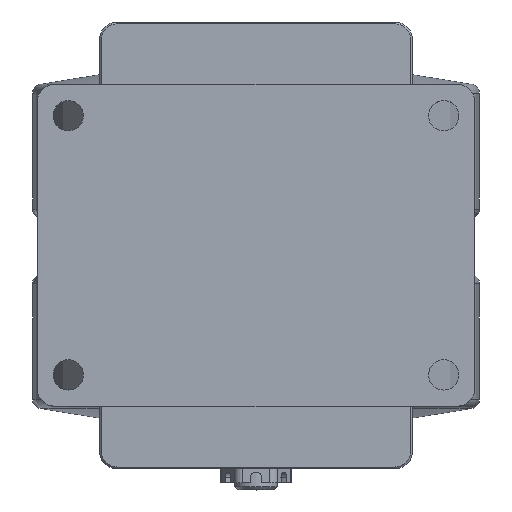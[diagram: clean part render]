
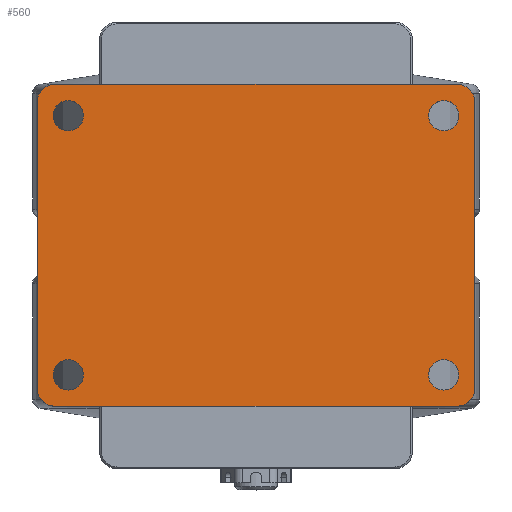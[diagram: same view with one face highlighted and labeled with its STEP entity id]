
A CAD part, top view. The second image highlights one B-rep face of the part: STEP entity #560.
In plain terms, the highlighted planar face has unit normal (0, 0, 1).
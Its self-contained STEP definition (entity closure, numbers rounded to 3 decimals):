
#560=ADVANCED_FACE('',(#1392,#1393,#1394,#1395,#1396),#889,.T.);
#889=PLANE('',#6814);
#1392=FACE_BOUND('',#1527,.T.);
#1393=FACE_BOUND('',#1528,.T.);
#1394=FACE_BOUND('',#1529,.T.);
#1395=FACE_BOUND('',#1530,.T.);
#1396=FACE_BOUND('',#1531,.T.);
#1527=EDGE_LOOP('',(#2615,#2616,#2617,#2618,#2619,#2620,#2621,#2622));
#1528=EDGE_LOOP('',(#2623));
#1529=EDGE_LOOP('',(#2624));
#1530=EDGE_LOOP('',(#2625));
#1531=EDGE_LOOP('',(#2626));
#1950=CIRCLE('',#6801,8.5);
#1951=CIRCLE('',#6803,8.5);
#1952=CIRCLE('',#6805,8.5);
#1953=CIRCLE('',#6808,8.5);
#1954=CIRCLE('',#6810,10.);
#1955=CIRCLE('',#6811,10.);
#1956=CIRCLE('',#6812,10.);
#1957=CIRCLE('',#6813,10.);
#2615=ORIENTED_EDGE('',*,*,#5063,.T.);
#2616=ORIENTED_EDGE('',*,*,#5075,.T.);
#2617=ORIENTED_EDGE('',*,*,#5065,.T.);
#2618=ORIENTED_EDGE('',*,*,#5076,.T.);
#2619=ORIENTED_EDGE('',*,*,#5071,.T.);
#2620=ORIENTED_EDGE('',*,*,#5077,.T.);
#2621=ORIENTED_EDGE('',*,*,#5059,.T.);
#2622=ORIENTED_EDGE('',*,*,#5078,.T.);
#2623=ORIENTED_EDGE('',*,*,#5070,.F.);
#2624=ORIENTED_EDGE('',*,*,#5069,.T.);
#2625=ORIENTED_EDGE('',*,*,#5068,.T.);
#2626=ORIENTED_EDGE('',*,*,#5074,.F.);
#4351=VERTEX_POINT('',#10162);
#4352=VERTEX_POINT('',#10163);
#4353=VERTEX_POINT('',#10168);
#4354=VERTEX_POINT('',#10170);
#4355=VERTEX_POINT('',#10174);
#4356=VERTEX_POINT('',#10175);
#4357=VERTEX_POINT('',#10180);
#4358=VERTEX_POINT('',#10183);
#4359=VERTEX_POINT('',#10186);
#4360=VERTEX_POINT('',#10189);
#4361=VERTEX_POINT('',#10190);
#4362=VERTEX_POINT('',#10195);
#5059=EDGE_CURVE('',#4351,#4352,#5814,.T.);
#5063=EDGE_CURVE('',#4354,#4353,#5818,.T.);
#5065=EDGE_CURVE('',#4355,#4356,#5820,.T.);
#5068=EDGE_CURVE('',#4357,#4357,#1950,.T.);
#5069=EDGE_CURVE('',#4358,#4358,#1951,.T.);
#5070=EDGE_CURVE('',#4359,#4359,#1952,.T.);
#5071=EDGE_CURVE('',#4360,#4361,#5823,.T.);
#5074=EDGE_CURVE('',#4362,#4362,#1953,.T.);
#5075=EDGE_CURVE('',#4353,#4355,#1954,.T.);
#5076=EDGE_CURVE('',#4356,#4360,#1955,.T.);
#5077=EDGE_CURVE('',#4361,#4351,#1956,.T.);
#5078=EDGE_CURVE('',#4352,#4354,#1957,.T.);
#5814=LINE('',#10161,#6288);
#5818=LINE('',#10169,#6292);
#5820=LINE('',#10173,#6294);
#5823=LINE('',#10188,#6297);
#6288=VECTOR('',#7716,1.);
#6292=VECTOR('',#7722,1.);
#6294=VECTOR('',#7726,1.);
#6297=VECTOR('',#7743,1.);
#6801=AXIS2_PLACEMENT_3D('',#10179,#7731,#7732);
#6803=AXIS2_PLACEMENT_3D('',#10182,#7735,#7736);
#6805=AXIS2_PLACEMENT_3D('',#10185,#7739,#7740);
#6808=AXIS2_PLACEMENT_3D('',#10194,#7748,#7749);
#6810=AXIS2_PLACEMENT_3D('',#10197,#7752,#7753);
#6811=AXIS2_PLACEMENT_3D('',#10198,#7754,#7755);
#6812=AXIS2_PLACEMENT_3D('',#10199,#7756,#7757);
#6813=AXIS2_PLACEMENT_3D('',#10200,#7758,#7759);
#6814=AXIS2_PLACEMENT_3D('',#10201,#7760,#7761);
#7716=DIRECTION('',(1.,0.,0.));
#7722=DIRECTION('',(0.,1.,0.));
#7726=DIRECTION('',(-1.,0.,0.));
#7731=DIRECTION('',(0.,0.,-1.));
#7732=DIRECTION('',(1.,0.,0.));
#7735=DIRECTION('',(0.,0.,-1.));
#7736=DIRECTION('',(1.,0.,0.));
#7739=DIRECTION('',(0.,0.,1.));
#7740=DIRECTION('',(1.,0.,0.));
#7743=DIRECTION('',(0.,-1.,0.));
#7748=DIRECTION('',(0.,0.,1.));
#7749=DIRECTION('',(1.,0.,0.));
#7752=DIRECTION('',(0.,0.,1.));
#7753=DIRECTION('',(0.,-1.,0.));
#7754=DIRECTION('',(0.,0.,1.));
#7755=DIRECTION('',(0.,-1.,0.));
#7756=DIRECTION('',(0.,0.,1.));
#7757=DIRECTION('',(0.,-1.,0.));
#7758=DIRECTION('',(0.,0.,1.));
#7759=DIRECTION('',(0.,-1.,0.));
#7760=DIRECTION('',(0.,0.,1.));
#7761=DIRECTION('',(0.,1.,0.));
#10161=CARTESIAN_POINT('',(-122.5,-90.,0.));
#10162=CARTESIAN_POINT('',(-112.5,-90.,0.));
#10163=CARTESIAN_POINT('',(112.5,-90.,0.));
#10168=CARTESIAN_POINT('',(122.5,80.,0.));
#10169=CARTESIAN_POINT('',(122.5,-90.,0.));
#10170=CARTESIAN_POINT('',(122.5,-80.,0.));
#10173=CARTESIAN_POINT('',(122.5,90.,0.));
#10174=CARTESIAN_POINT('',(112.5,90.,0.));
#10175=CARTESIAN_POINT('',(-112.5,90.,0.));
#10179=CARTESIAN_POINT('',(105.,-72.5,0.));
#10180=CARTESIAN_POINT('',(113.5,-72.5,0.));
#10182=CARTESIAN_POINT('',(-105.,-72.5,0.));
#10183=CARTESIAN_POINT('',(-96.5,-72.5,0.));
#10185=CARTESIAN_POINT('',(-105.,72.5,0.));
#10186=CARTESIAN_POINT('',(-96.5,72.5,0.));
#10188=CARTESIAN_POINT('',(-122.5,90.,0.));
#10189=CARTESIAN_POINT('',(-122.5,80.,0.));
#10190=CARTESIAN_POINT('',(-122.5,-80.,0.));
#10194=CARTESIAN_POINT('',(105.,72.5,0.));
#10195=CARTESIAN_POINT('',(113.5,72.5,0.));
#10197=CARTESIAN_POINT('',(112.5,80.,0.));
#10198=CARTESIAN_POINT('',(-112.5,80.,0.));
#10199=CARTESIAN_POINT('',(-112.5,-80.,0.));
#10200=CARTESIAN_POINT('',(112.5,-80.,0.));
#10201=CARTESIAN_POINT('',(-105.,72.5,0.));
